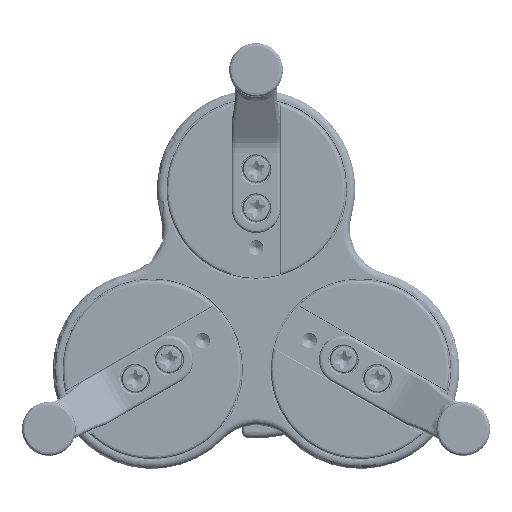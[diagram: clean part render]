
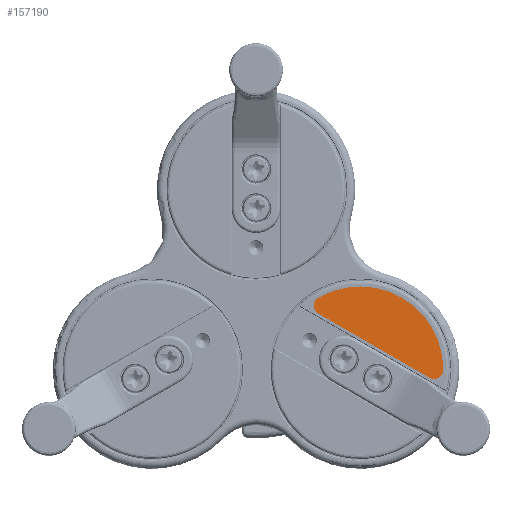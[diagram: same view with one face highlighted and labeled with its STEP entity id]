
A CAD part, top view. The second image highlights one B-rep face of the part: STEP entity #157190.
In plain terms, the highlighted planar face has unit normal (0, 0, 1) as drawn and (0, -1, 0) by its records, which use the part's own axes.
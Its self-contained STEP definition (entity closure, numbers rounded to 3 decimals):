
#9154 = EDGE_CURVE ( 'NONE', #116894, #71867, #138367, .T. ) ;
#13225 = DIRECTION ( 'NONE',  ( 0., 1., 0. ) ) ;
#16734 = ORIENTED_EDGE ( 'NONE', *, *, #80650, .F. ) ;
#20033 = CARTESIAN_POINT ( 'NONE',  ( -22.073, -8.9, -12.968 ) ) ;
#27220 = CARTESIAN_POINT ( 'NONE',  ( 0., -8.9, -8.5 ) ) ;
#27788 = DIRECTION ( 'NONE',  ( 1., 0., 0. ) ) ;
#30621 = CARTESIAN_POINT ( 'NONE',  ( 0., -8.9, 0. ) ) ;
#43497 = CARTESIAN_POINT ( 'NONE',  ( 19.745, -8.9, -8.5 ) ) ;
#57260 = VECTOR ( 'NONE', #192710, 1000. ) ;
#60837 = LINE ( 'NONE', #27220, #57260 ) ;
#71867 = VERTEX_POINT ( 'NONE', #103195 ) ;
#76586 = AXIS2_PLACEMENT_3D ( 'NONE', #30621, #13225, #148403 ) ;
#78411 = DIRECTION ( 'NONE',  ( 1., 0., 0. ) ) ;
#80650 = EDGE_CURVE ( 'NONE', #179476, #171777, #114337, .T. ) ;
#83509 = CIRCLE ( 'NONE', #76586, 25.6 ) ;
#94616 = CARTESIAN_POINT ( 'NONE',  ( 19.745, -8.9, -11.34 ) ) ;
#103195 = CARTESIAN_POINT ( 'NONE',  ( 22.073, -8.9, -12.968 ) ) ;
#114337 = CIRCLE ( 'NONE', #128080, 2.84 ) ;
#116644 = CARTESIAN_POINT ( 'NONE',  ( 0., -8.9, 0. ) ) ;
#116894 = VERTEX_POINT ( 'NONE', #43497 ) ;
#118765 = DIRECTION ( 'NONE',  ( 0., 1., 0. ) ) ;
#128080 = AXIS2_PLACEMENT_3D ( 'NONE', #171785, #189065, #27788 ) ;
#138367 = CIRCLE ( 'NONE', #155727, 2.84 ) ;
#141741 = AXIS2_PLACEMENT_3D ( 'NONE', #116644, #118765, #149111 ) ;
#142175 = ORIENTED_EDGE ( 'NONE', *, *, #9154, .F. ) ;
#146914 = EDGE_CURVE ( 'NONE', #71867, #179476, #83509, .T. ) ;
#148403 = DIRECTION ( 'NONE',  ( 1., 0., 0. ) ) ;
#149111 = DIRECTION ( 'NONE',  ( 1., 0., 0. ) ) ;
#154526 = ORIENTED_EDGE ( 'NONE', *, *, #192534, .T. ) ;
#155727 = AXIS2_PLACEMENT_3D ( 'NONE', #94616, #162676, #78411 ) ;
#157190 = ADVANCED_FACE ( 'NONE', ( #158964 ), #176342, .F. ) ;
#158964 = FACE_OUTER_BOUND ( 'NONE', #168384, .T. ) ;
#162676 = DIRECTION ( 'NONE',  ( 0., 1., 0. ) ) ;
#166665 = CARTESIAN_POINT ( 'NONE',  ( -19.745, -8.9, -8.5 ) ) ;
#168384 = EDGE_LOOP ( 'NONE', ( #16734, #170663, #142175, #154526 ) ) ;
#170663 = ORIENTED_EDGE ( 'NONE', *, *, #146914, .F. ) ;
#171777 = VERTEX_POINT ( 'NONE', #166665 ) ;
#171785 = CARTESIAN_POINT ( 'NONE',  ( -19.745, -8.9, -11.34 ) ) ;
#176342 = PLANE ( 'NONE',  #141741 ) ;
#179476 = VERTEX_POINT ( 'NONE', #20033 ) ;
#189065 = DIRECTION ( 'NONE',  ( 0., 1., 0. ) ) ;
#192534 = EDGE_CURVE ( 'NONE', #116894, #171777, #60837, .T. ) ;
#192710 = DIRECTION ( 'NONE',  ( -1., 0., 0. ) ) ;
